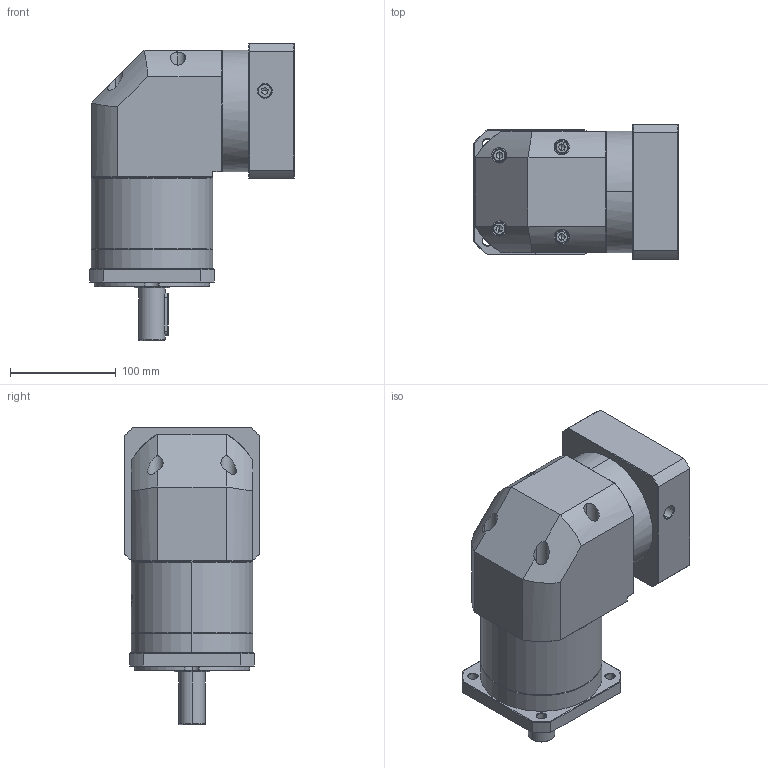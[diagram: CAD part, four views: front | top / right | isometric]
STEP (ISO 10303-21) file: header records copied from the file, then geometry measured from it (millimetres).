
FILE_DESCRIPTION (( 'STEP AP214' ), '1' );
FILE_NAME ('ZFR120A-D25-L2-P2-22-110-145-M8.step', '2023-08-27T08:03:22', ( '' ), ( '' ), 'SwSTEP 2.0', 'SolidWorks 2016', '' );
FILE_SCHEMA (( 'AUTOMOTIVE_DESIGN' ));
Length unit declared in the file: millimetre
Products named in the file (1): ZFR120A-D25-L2-P2-22-110-145-M8
Bounding box: 193.9 x 128 x 281.5 mm (x, y, z)
Volume: 3272849.7 mm3; surface area: 261860.8 mm2
Topology: 6 solids, 6 shells, 2266 faces, 5977 edges, 3816 vertices
Faces by surface type: plane 1061, cylinder 434, bspline 425, cone 338, torus 8
Entity records: 124160 total; most frequent: CARTESIAN_POINT 48746, ORIENTED_EDGE 11894, DIRECTION 8623, EDGE_CURVE 5947, VERTEX_POINT 3816, LINE 3159, VECTOR 3159, AXIS2_PLACEMENT_3D 2732
